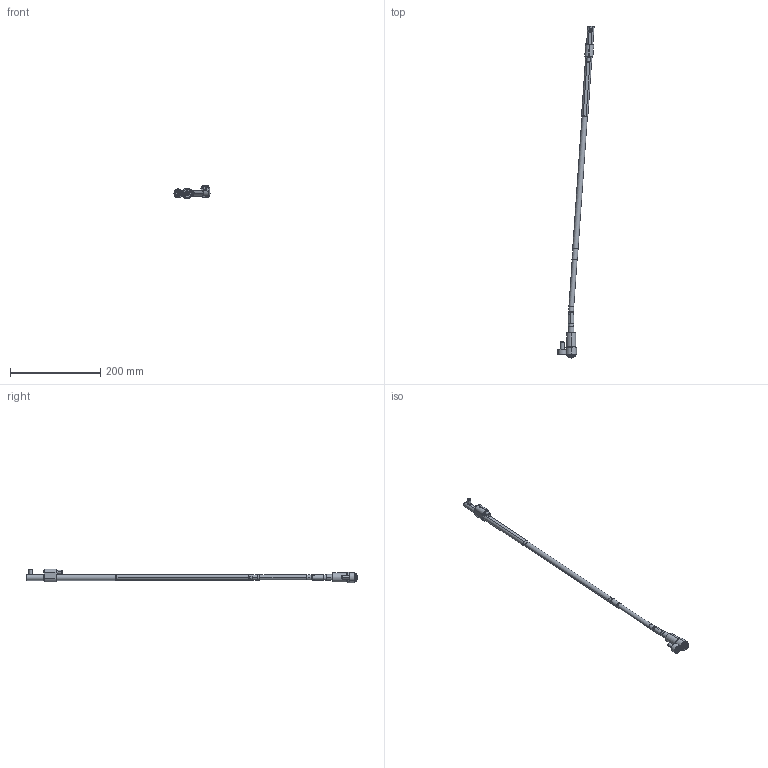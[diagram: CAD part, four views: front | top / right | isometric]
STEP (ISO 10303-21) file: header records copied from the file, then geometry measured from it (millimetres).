
FILE_DESCRIPTION (( 'STEP AP214' ), '1' );
FILE_NAME ('WL120100-EJE 4°.STEP', '2021-03-19T15:34:11', ( '' ), ( '' ), 'SwSTEP 2.0', 'SolidWorks 2019', '' );
FILE_SCHEMA (( 'AUTOMOTIVE_DESIGN' ));
Length unit declared in the file: millimetre
Products named in the file (17): 8WL12EJEP; Web-WL12-A1; 1DIN912645_DIN 912 M6 x 45 --- 45C; WL120100-B1; Web-WL12-A2; Web-WL12-XX_ON-WL120100-4; Web-WL12-F01; Web-WL12-F00.SLDPRT; 1DIN912820_DIN 912 M8 x 20 --- 20C; Web-WL12-A3; WL120100-E; 3IMAN5X3-150_con sellador; WL120100-D; WL120100-EJE 4°; Web-WL12-A8; WL120100-B; 9DR2808-TOR
Assembly tree (16 placements, depth 3):
  WL120100-EJE 4°
    Web-WL12-A8
    Web-WL12-XX_ON-WL120100-4
    Web-WL12-A3
    Web-WL12-A2
    Web-WL12-A1
    Web-WL12-F00.SLDPRT
      Web-WL12-F01
      1DIN912820_DIN 912 M8 x 20 --- 20C
      1DIN912645_DIN 912 M6 x 45 --- 45C
    WL120100-D
    8WL12EJEP
    WL120100-E
    9DR2808-TOR
    WL120100-B
      WL120100-B1
      3IMAN5X3-150_con sellador
Bounding box: 80.25 x 736.93 x 29.9 mm (x, y, z)
Volume: 113341.5 mm3; surface area: 49842.2 mm2
Topology: 15 solids, 15 shells, 432 faces, 906 edges, 525 vertices
Faces by surface type: plane 139, cylinder 123, cone 120, torus 50
Entity records: 13661 total; most frequent: DIRECTION 2240, CARTESIAN_POINT 2104, ORIENTED_EDGE 1788, AXIS2_PLACEMENT_3D 929, EDGE_CURVE 894, VERTEX_POINT 525, EDGE_LOOP 477, CIRCLE 476
